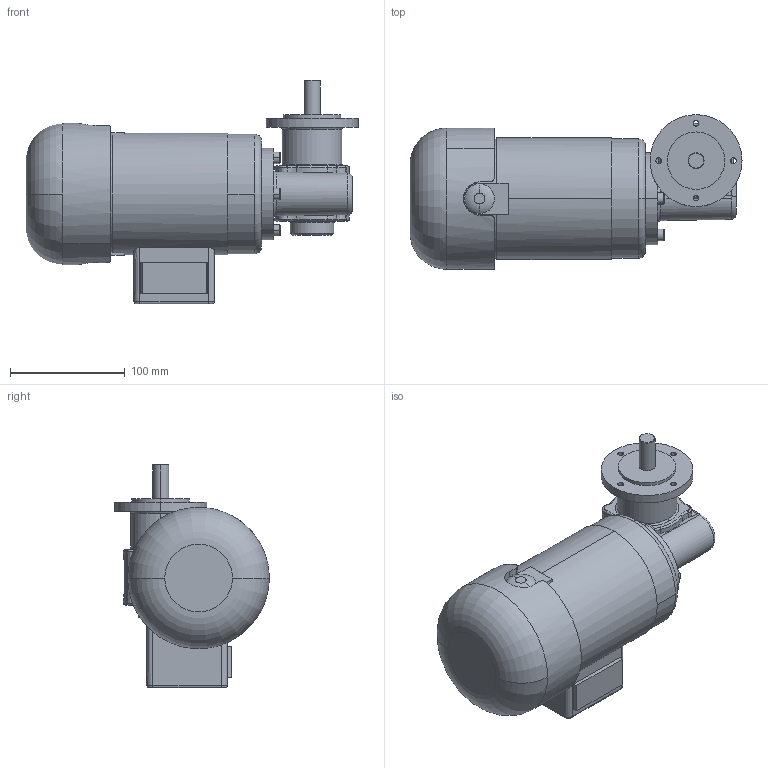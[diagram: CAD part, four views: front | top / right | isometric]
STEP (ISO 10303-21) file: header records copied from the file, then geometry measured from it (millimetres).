
FILE_DESCRIPTION(('OneSpaceDesigner STEP Export'),'2;1');
FILE_NAME('KGOG61-62_GF133_H.stp','2008-08-18T13:23:03',(''),(''),'OneSpace Designer STEP processor (Jan. 2003) for AP214(CD)(Solid Model)','OneSpace Designer 12.01D 09-Jul-2004 (C) CoCreate Software GmbH','');
FILE_SCHEMA(('AUTOMOTIVE_DESIGN_CC2 {1 2 10303 214 -1 1 5 1}'));
Length unit declared in the file: millimetre
Products named in the file (2): KGOG61-62_GF133_H
Assembly tree (1 placements, depth 2):
  KGOG61-62_GF133_H
    KGOG61-62_GF133_H
Bounding box: 289 x 134.5 x 194.5 mm (x, y, z)
Volume: 2593470.8 mm3; surface area: 142848.8 mm2
Topology: 1 solids, 1 shells, 206 faces, 524 edges, 333 vertices
Faces by surface type: cylinder 54, plane 52, bspline 47, extrusion 29, torus 14, cone 10
Entity records: 18018 total; most frequent: CARTESIAN_POINT 13934, ORIENTED_EDGE 1048, EDGE_CURVE 524, DIRECTION 506, VERTEX_POINT 333, EDGE_LOOP 227, FACE_OUTER_BOUND 206, ADVANCED_FACE 206
